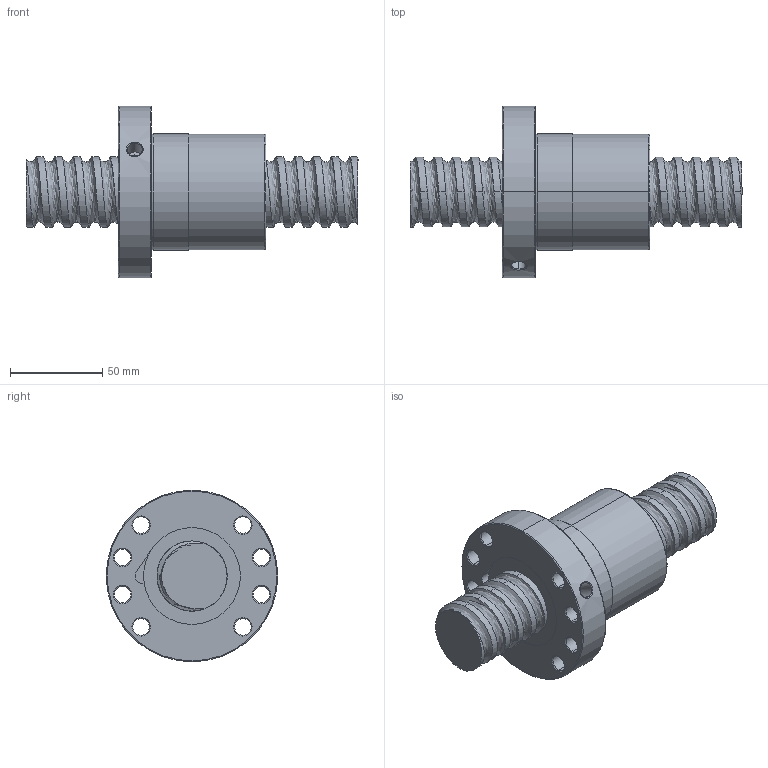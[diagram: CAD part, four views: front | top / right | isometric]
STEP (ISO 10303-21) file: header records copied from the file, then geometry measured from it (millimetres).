
FILE_DESCRIPTION (( 'STEP AP214' ), '1' );
FILE_NAME ('FSDC03810T5-F-A.STEP', '2010-06-25T11:59:00', ( 'XPAUTO' ), ( 'XPAUTO' ), 'SwSTEP 2.0', 'SolidWorks 2007', '' );
FILE_SCHEMA (( 'AUTOMOTIVE_DESIGN' ));
Length unit declared in the file: millimetre
Products named in the file (3): FSDC03810T5-F-A.sldasm-Part-2_預設; FSDC03810T5-F-A.sldasm-Part-1_預設; FSDC03810T5-F-A
Assembly tree (2 placements, depth 2):
  FSDC03810T5-F-A
    FSDC03810T5-F-A.sldasm-Part-2_預設
    FSDC03810T5-F-A.sldasm-Part-1_預設
Bounding box: 180 x 93 x 93 mm (x, y, z)
Volume: 393789 mm3; surface area: 69827.4 mm2
Topology: 2 solids, 2 shells, 136 faces, 338 edges, 211 vertices
Faces by surface type: cylinder 77, cone 32, plane 16, torus 6, bspline 5
Entity records: 26349 total; most frequent: CARTESIAN_POINT 23097, ORIENTED_EDGE 676, DIRECTION 640, EDGE_CURVE 338, AXIS2_PLACEMENT_3D 262, VERTEX_POINT 211, EDGE_LOOP 161, FACE_OUTER_BOUND 136
